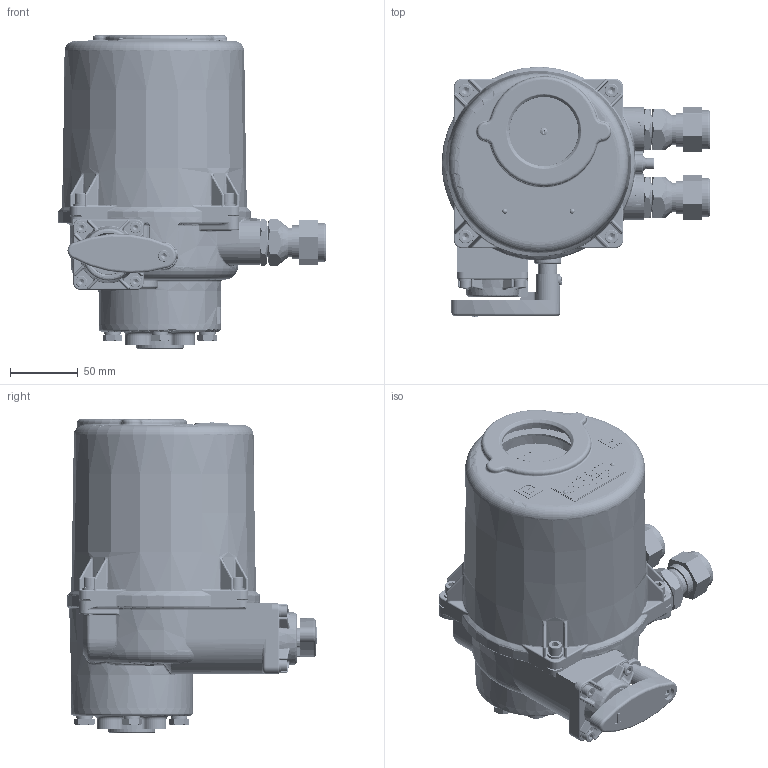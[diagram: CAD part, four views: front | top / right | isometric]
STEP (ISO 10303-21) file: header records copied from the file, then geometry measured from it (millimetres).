
FILE_DESCRIPTION(('STEP AP242'), '1');
FILE_NAME('8100B F05', '', ('UNSPECIFIED'), ('UNSPECIFIED'), 'C3D Converter', 'C3D Toolkit', '');
FILE_SCHEMA(('AP242_MANAGED_MODEL_BASED_3D_ENGINEERING_MIM_LF { 1 0 10303 442 1 1 4 }'));
Length unit declared in the file: millimetre
Products named in the file (1): ГЗ-ОФВ (К) F05
Bounding box: 198.5 x 185 x 231.5 mm (x, y, z)
Volume: 5220.7 mm3; surface area: 385278.4 mm2
Topology: 4 solids, 78 shells, 5159 faces, 13993 edges, 8980 vertices
Faces by surface type: plane 1932, cylinder 1264, bspline 937, cone 533, torus 411, sphere 82
Full cylindrical faces by diameter (mm): 2 x2, 2.2 x2, 2.459 x1, 2.675 x1, 3 x1, 3.2 x1, 3.242 x4, 3.545 x4, 4 x11, 4.134 x10, 4.2 x4, 4.3 x5, 4.5 x1, 4.917 x13, 5 x11, 5.3 x5, 5.5 x6, 6 x9, 6.2 x1, 6.4 x4, 6.5 x4, 6.647 x8, 6.8 x2, 7 x4, 8 x5, 8.5 x8, 9 x10, 9.6 x1, 10 x17, 11.6 x4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
Entity records: 301633 total; most frequent: CARTESIAN_POINT 141553, ORIENTED_EDGE 26537, DIRECTION 21502, EDGE_CURVE 13349, VERTEX_POINT 8900, AXIS2_PLACEMENT_3D 8558, EDGE_LOOP 6005, FACE_BOUND 5737
